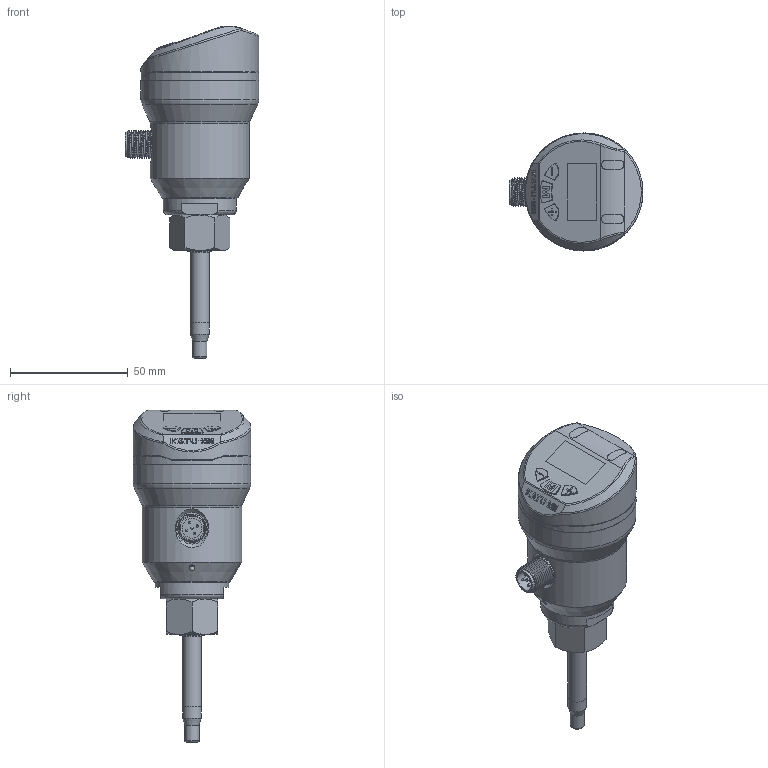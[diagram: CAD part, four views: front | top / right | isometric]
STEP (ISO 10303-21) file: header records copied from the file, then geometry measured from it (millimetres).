
FILE_DESCRIPTION( (''), '2;1');
FILE_NAME( 'QEKE_M18_L60_M18X1.5_R1-2_adapter.step', '2026-06-25T11:03:19+08:00', (''), (''), '', '', '');
FILE_SCHEMA (('AP203_CONFIGURATION_CONTROLLED_3D_DESIGN_OF_MECHANICAL_PARTS_AND_ASSEMBLIES_MIM_LF { 1 0 10303 403 2 1 2}'));
Length unit declared in the file: millimetre
Products named in the file (1): QEKE M18_L60_M18X1.5_R1-2_adapter
Bounding box: 56.7 x 50 x 140.7 mm (x, y, z)
Volume: 93531 mm3; surface area: 37339.8 mm2
Topology: 12 solids, 12 shells, 615 faces, 1524 edges, 982 vertices
Faces by surface type: plane 325, cylinder 144, cone 52, bspline 51, torus 32, sphere 11
Full cylindrical faces by diameter (mm): 1 x10, 2.5 x1, 2.7 x5, 3.1 x1, 3.5 x2, 6 x2, 6.5 x1, 7 x1, 8 x3, 8.4 x1, 9.7 x1, 9.8 x1, 10.1 x1, 11 x1, 11.6 x1, 12 x2, 13.4 x1, 13.7 x1, 15.4 x1, 16.1 x1, 16.5 x6, 23 x3, 26.1 x5, 31 x1, 42 x1, 48 x1, 50 x3
Entity records: 22377 total; most frequent: CARTESIAN_POINT 7937, ORIENTED_EDGE 2722, DIRECTION 2700, EDGE_CURVE 1361, AXIS2_PLACEMENT_3D 978, VERTEX_POINT 921, EDGE_LOOP 772, LINE 744
